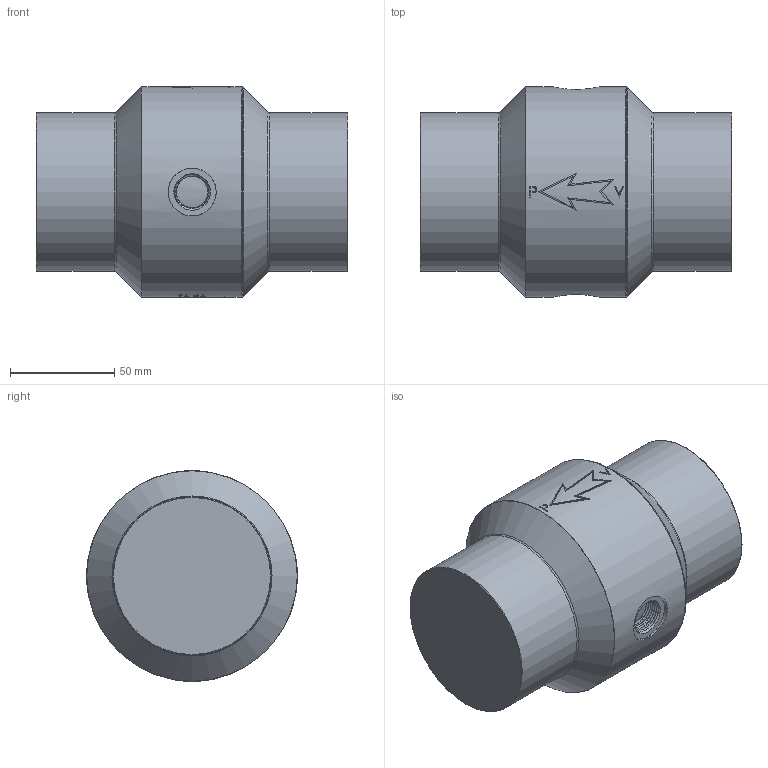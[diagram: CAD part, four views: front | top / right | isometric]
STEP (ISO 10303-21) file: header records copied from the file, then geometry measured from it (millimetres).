
FILE_DESCRIPTION (( 'STEP AP214' ), '1' );
FILE_NAME ('STEP - TP 76.STEP', '2024-10-31T10:19:05', ( '' ), ( '' ), 'SwSTEP 2.0', 'SolidWorks 2021', '' );
FILE_SCHEMA (( 'AUTOMOTIVE_DESIGN' ));
Length unit declared in the file: millimetre
Products named in the file (1): STEP - TP 76
Bounding box: 149.45 x 101 x 101 mm (x, y, z)
Volume: 882495.4 mm3; surface area: 54303.1 mm2
Topology: 1 solids, 1 shells, 643 faces, 1718 edges, 1144 vertices
Faces by surface type: bspline 301, plane 254, cylinder 77, torus 7, cone 4
Full cylindrical faces by diameter (mm): 23 x2, 76 x2, 101 x1
Entity records: 54990 total; most frequent: CARTESIAN_POINT 35176, ORIENTED_EDGE 3364, EDGE_CURVE 1682, DIRECTION 1580, VERTEX_POINT 1128, B_SPLINE_CURVE_WITH_KNOTS 1012, EDGE_LOOP 728, FACE_OUTER_BOUND 654
